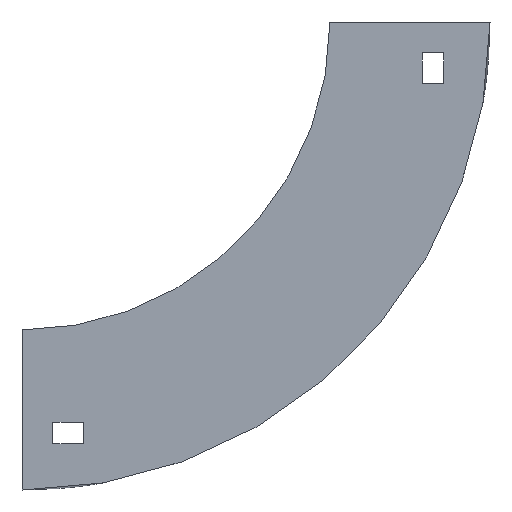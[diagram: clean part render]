
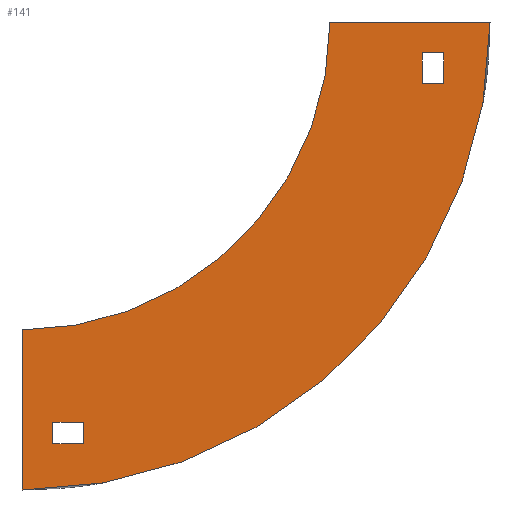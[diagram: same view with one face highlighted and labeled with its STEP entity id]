
A CAD part, left-side view. The second image highlights one B-rep face of the part: STEP entity #141.
In plain terms, the highlighted planar face has unit normal (-1, 0, 0).
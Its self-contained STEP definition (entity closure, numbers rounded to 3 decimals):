
#2 = ORIENTED_EDGE ( 'NONE', *, *, #277, .F. ) ;
#3 = AXIS2_PLACEMENT_3D ( 'NONE', #939, #219, #840 ) ;
#5 = VECTOR ( 'NONE', #164, 1000. ) ;
#28 = VERTEX_POINT ( 'NONE', #493 ) ;
#36 = DIRECTION ( 'NONE',  ( 0., 0., 1. ) ) ;
#50 = EDGE_LOOP ( 'NONE', ( #494, #790, #550, #442 ) ) ;
#69 = DIRECTION ( 'NONE',  ( 0., -1., 0. ) ) ;
#74 = FACE_OUTER_BOUND ( 'NONE', #1075, .T. ) ;
#87 = CARTESIAN_POINT ( 'NONE',  ( -202., 80., -130. ) ) ;
#88 = CARTESIAN_POINT ( 'NONE',  ( -202., 90., -137. ) ) ;
#91 = DIRECTION ( 'NONE',  ( 0., 0., 1. ) ) ;
#107 = VECTOR ( 'NONE', #391, 1000. ) ;
#115 = LINE ( 'NONE', #896, #107 ) ;
#116 = VECTOR ( 'NONE', #262, 1000. ) ;
#117 = CARTESIAN_POINT ( 'NONE',  ( -202., 80., -137. ) ) ;
#121 = ORIENTED_EDGE ( 'NONE', *, *, #820, .F. ) ;
#141 = ADVANCED_FACE ( 'NONE', ( #74, #519, #716 ), #410, .F. ) ;
#158 = LINE ( 'NONE', #965, #856 ) ;
#164 = DIRECTION ( 'NONE',  ( 0., 0., 1. ) ) ;
#175 = LINE ( 'NONE', #87, #883 ) ;
#176 = CARTESIAN_POINT ( 'NONE',  ( -202., 100., 0. ) ) ;
#190 = VECTOR ( 'NONE', #547, 1000. ) ;
#192 = LINE ( 'NONE', #827, #925 ) ;
#198 = LINE ( 'NONE', #458, #1131 ) ;
#204 = DIRECTION ( 'NONE',  ( 0., 0., -1. ) ) ;
#206 = DIRECTION ( 'NONE',  ( 0., 0., -1. ) ) ;
#210 = VERTEX_POINT ( 'NONE', #632 ) ;
#211 = CARTESIAN_POINT ( 'NONE',  ( -202., -30., -10. ) ) ;
#212 = CIRCLE ( 'NONE', #909, 152. ) ;
#219 = DIRECTION ( 'NONE',  ( -1., 0., 0. ) ) ;
#226 = CARTESIAN_POINT ( 'NONE',  ( -202., -37., -20. ) ) ;
#262 = DIRECTION ( 'NONE',  ( 0., -1., 0. ) ) ;
#270 = VERTEX_POINT ( 'NONE', #660 ) ;
#277 = EDGE_CURVE ( 'NONE', #28, #270, #198, .T. ) ;
#279 = VERTEX_POINT ( 'NONE', #897 ) ;
#294 = LINE ( 'NONE', #816, #190 ) ;
#324 = CIRCLE ( 'NONE', #3, 100. ) ;
#332 = ORIENTED_EDGE ( 'NONE', *, *, #791, .F. ) ;
#340 = LINE ( 'NONE', #696, #5 ) ;
#342 = DIRECTION ( 'NONE',  ( 0., 0., -1. ) ) ;
#390 = VERTEX_POINT ( 'NONE', #946 ) ;
#391 = DIRECTION ( 'NONE',  ( 0., 1., 0. ) ) ;
#410 = PLANE ( 'NONE',  #941 ) ;
#435 = CARTESIAN_POINT ( 'NONE',  ( -202., 100., 0. ) ) ;
#437 = VERTEX_POINT ( 'NONE', #226 ) ;
#442 = ORIENTED_EDGE ( 'NONE', *, *, #992, .T. ) ;
#451 = DIRECTION ( 'NONE',  ( 1., 0., 0. ) ) ;
#458 = CARTESIAN_POINT ( 'NONE',  ( -202., 90., -130. ) ) ;
#460 = VERTEX_POINT ( 'NONE', #504 ) ;
#489 = VERTEX_POINT ( 'NONE', #1030 ) ;
#493 = CARTESIAN_POINT ( 'NONE',  ( -202., 90., -130. ) ) ;
#494 = ORIENTED_EDGE ( 'NONE', *, *, #648, .T. ) ;
#501 = EDGE_CURVE ( 'NONE', #966, #390, #175, .T. ) ;
#504 = CARTESIAN_POINT ( 'NONE',  ( -202., 100., -152. ) ) ;
#509 = CARTESIAN_POINT ( 'NONE',  ( -202., -30., -10. ) ) ;
#519 = FACE_BOUND ( 'NONE', #50, .T. ) ;
#532 = EDGE_CURVE ( 'NONE', #1078, #702, #956, .T. ) ;
#541 = VECTOR ( 'NONE', #69, 1000. ) ;
#547 = DIRECTION ( 'NONE',  ( 0., 1., 0. ) ) ;
#550 = ORIENTED_EDGE ( 'NONE', *, *, #669, .T. ) ;
#579 = ORIENTED_EDGE ( 'NONE', *, *, #1124, .F. ) ;
#608 = DIRECTION ( 'NONE',  ( 0., 0., -1. ) ) ;
#627 = ORIENTED_EDGE ( 'NONE', *, *, #886, .F. ) ;
#632 = CARTESIAN_POINT ( 'NONE',  ( -202., -30., -20. ) ) ;
#648 = EDGE_CURVE ( 'NONE', #210, #1078, #1090, .T. ) ;
#660 = CARTESIAN_POINT ( 'NONE',  ( -202., 90., -137. ) ) ;
#669 = EDGE_CURVE ( 'NONE', #702, #437, #192, .T. ) ;
#696 = CARTESIAN_POINT ( 'NONE',  ( -202., 100., -100. ) ) ;
#702 = VERTEX_POINT ( 'NONE', #1085 ) ;
#703 = EDGE_CURVE ( 'NONE', #390, #28, #115, .T. ) ;
#716 = FACE_BOUND ( 'NONE', #726, .T. ) ;
#721 = VECTOR ( 'NONE', #36, 1000. ) ;
#726 = EDGE_LOOP ( 'NONE', ( #2, #1062, #995, #121 ) ) ;
#779 = DIRECTION ( 'NONE',  ( 0., -1., 0. ) ) ;
#790 = ORIENTED_EDGE ( 'NONE', *, *, #532, .T. ) ;
#791 = EDGE_CURVE ( 'NONE', #489, #460, #212, .T. ) ;
#793 = CARTESIAN_POINT ( 'NONE',  ( -202., -30., -10. ) ) ;
#816 = CARTESIAN_POINT ( 'NONE',  ( -202., -30., -20. ) ) ;
#820 = EDGE_CURVE ( 'NONE', #270, #966, #957, .T. ) ;
#827 = CARTESIAN_POINT ( 'NONE',  ( -202., -37., -10. ) ) ;
#840 = DIRECTION ( 'NONE',  ( 0., 0., -1. ) ) ;
#856 = VECTOR ( 'NONE', #779, 1000. ) ;
#883 = VECTOR ( 'NONE', #91, 1000. ) ;
#886 = EDGE_CURVE ( 'NONE', #1100, #489, #158, .T. ) ;
#890 = EDGE_CURVE ( 'NONE', #460, #279, #340, .T. ) ;
#896 = CARTESIAN_POINT ( 'NONE',  ( -202., 90., -130. ) ) ;
#897 = CARTESIAN_POINT ( 'NONE',  ( -202., 100., -100. ) ) ;
#909 = AXIS2_PLACEMENT_3D ( 'NONE', #176, #451, #608 ) ;
#925 = VECTOR ( 'NONE', #204, 1000. ) ;
#939 = CARTESIAN_POINT ( 'NONE',  ( -202., 100., 0. ) ) ;
#941 = AXIS2_PLACEMENT_3D ( 'NONE', #435, #1050, #342 ) ;
#946 = CARTESIAN_POINT ( 'NONE',  ( -202., 80., -130. ) ) ;
#956 = LINE ( 'NONE', #793, #541 ) ;
#957 = LINE ( 'NONE', #88, #116 ) ;
#965 = CARTESIAN_POINT ( 'NONE',  ( -202., -52., 0. ) ) ;
#966 = VERTEX_POINT ( 'NONE', #117 ) ;
#992 = EDGE_CURVE ( 'NONE', #437, #210, #294, .T. ) ;
#995 = ORIENTED_EDGE ( 'NONE', *, *, #501, .F. ) ;
#1012 = CARTESIAN_POINT ( 'NONE',  ( -202., 0., 0. ) ) ;
#1030 = CARTESIAN_POINT ( 'NONE',  ( -202., -52., 0. ) ) ;
#1050 = DIRECTION ( 'NONE',  ( 1., 0., 0. ) ) ;
#1051 = ORIENTED_EDGE ( 'NONE', *, *, #890, .F. ) ;
#1062 = ORIENTED_EDGE ( 'NONE', *, *, #703, .F. ) ;
#1075 = EDGE_LOOP ( 'NONE', ( #579, #1051, #332, #627 ) ) ;
#1078 = VERTEX_POINT ( 'NONE', #509 ) ;
#1085 = CARTESIAN_POINT ( 'NONE',  ( -202., -37., -10. ) ) ;
#1090 = LINE ( 'NONE', #211, #721 ) ;
#1100 = VERTEX_POINT ( 'NONE', #1012 ) ;
#1124 = EDGE_CURVE ( 'NONE', #279, #1100, #324, .T. ) ;
#1131 = VECTOR ( 'NONE', #206, 1000. ) ;
